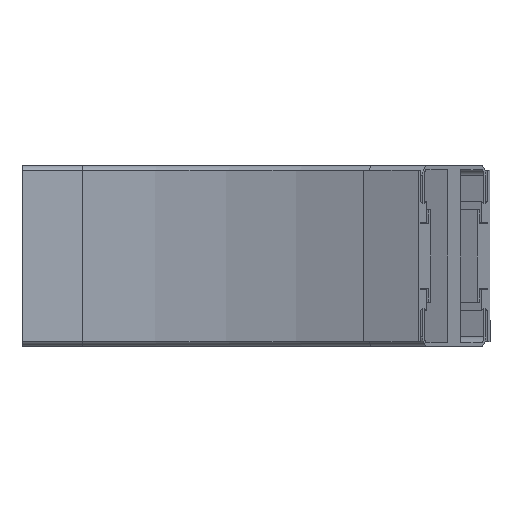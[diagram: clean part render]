
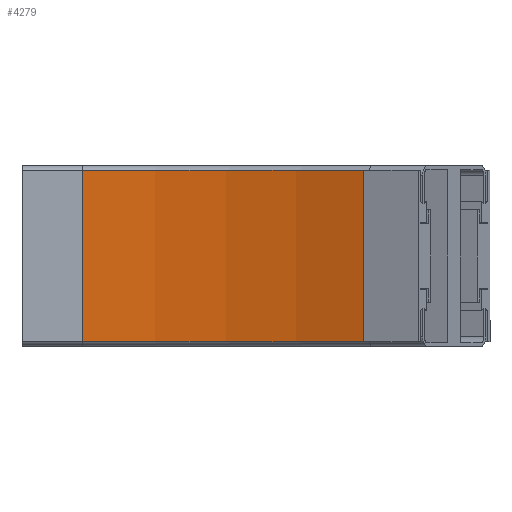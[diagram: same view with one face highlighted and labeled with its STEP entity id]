
A CAD part, front view. The second image highlights one B-rep face of the part: STEP entity #4279.
In plain terms, the highlighted cylindrical face has radius 443.5 mm (diameter 887 mm), a partial arc.
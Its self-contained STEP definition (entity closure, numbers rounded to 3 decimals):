
#12 = DIRECTION ( 'NONE',  ( 0., 0., 1. ) ) ;
#22 = EDGE_CURVE ( 'NONE', #5485, #3886, #3359, .T. ) ;
#30 = DIRECTION ( 'NONE',  ( 1., 0., 0. ) ) ;
#51 = LINE ( 'NONE', #3775, #467 ) ;
#102 = AXIS2_PLACEMENT_3D ( 'NONE', #4563, #629, #1494 ) ;
#467 = VECTOR ( 'NONE', #5078, 1000. ) ;
#629 = DIRECTION ( 'NONE',  ( 0., 0., 1. ) ) ;
#728 = CARTESIAN_POINT ( 'NONE',  ( 40., -500., -57.15 ) ) ;
#780 = ORIENTED_EDGE ( 'NONE', *, *, #22, .T. ) ;
#1083 = VECTOR ( 'NONE', #2905, 1000. ) ;
#1085 = CYLINDRICAL_SURFACE ( 'NONE', #2489, 443.5 ) ;
#1490 = FACE_OUTER_BOUND ( 'NONE', #1503, .T. ) ;
#1494 = DIRECTION ( 'NONE',  ( 1., 0., 0. ) ) ;
#1503 = EDGE_LOOP ( 'NONE', ( #3691, #4682, #1720, #780 ) ) ;
#1625 = EDGE_CURVE ( 'NONE', #2064, #2873, #3266, .T. ) ;
#1720 = ORIENTED_EDGE ( 'NONE', *, *, #2689, .T. ) ;
#2064 = VERTEX_POINT ( 'NONE', #4559 ) ;
#2147 = AXIS2_PLACEMENT_3D ( 'NONE', #728, #3831, #4623 ) ;
#2489 = AXIS2_PLACEMENT_3D ( 'NONE', #2631, #12, #30 ) ;
#2570 = CARTESIAN_POINT ( 'NONE',  ( 40., -56.5, -57.15 ) ) ;
#2631 = CARTESIAN_POINT ( 'NONE',  ( 40., -500., 0. ) ) ;
#2689 = EDGE_CURVE ( 'NONE', #2064, #5485, #3937, .T. ) ;
#2696 = EDGE_CURVE ( 'NONE', #3886, #2873, #51, .T. ) ;
#2873 = VERTEX_POINT ( 'NONE', #2570 ) ;
#2905 = DIRECTION ( 'NONE',  ( 0., 0., 1. ) ) ;
#3212 = CARTESIAN_POINT ( 'NONE',  ( 40., -56.5, 57.15 ) ) ;
#3266 = CIRCLE ( 'NONE', #2147, 443.5 ) ;
#3267 = CARTESIAN_POINT ( 'NONE',  ( 227.431, -98.052, -57.15 ) ) ;
#3359 = CIRCLE ( 'NONE', #102, 443.5 ) ;
#3691 = ORIENTED_EDGE ( 'NONE', *, *, #2696, .T. ) ;
#3775 = CARTESIAN_POINT ( 'NONE',  ( 40., -56.5, 0. ) ) ;
#3831 = DIRECTION ( 'NONE',  ( 0., 0., 1. ) ) ;
#3886 = VERTEX_POINT ( 'NONE', #3212 ) ;
#3937 = LINE ( 'NONE', #3267, #1083 ) ;
#4279 = ADVANCED_FACE ( 'NONE', ( #1490 ), #1085, .F. ) ;
#4559 = CARTESIAN_POINT ( 'NONE',  ( 227.431, -98.052, -57.15 ) ) ;
#4563 = CARTESIAN_POINT ( 'NONE',  ( 40., -500., 57.15 ) ) ;
#4623 = DIRECTION ( 'NONE',  ( 1., 0., 0. ) ) ;
#4682 = ORIENTED_EDGE ( 'NONE', *, *, #1625, .F. ) ;
#5071 = CARTESIAN_POINT ( 'NONE',  ( 227.431, -98.052, 57.15 ) ) ;
#5078 = DIRECTION ( 'NONE',  ( 0., 0., -1. ) ) ;
#5485 = VERTEX_POINT ( 'NONE', #5071 ) ;
